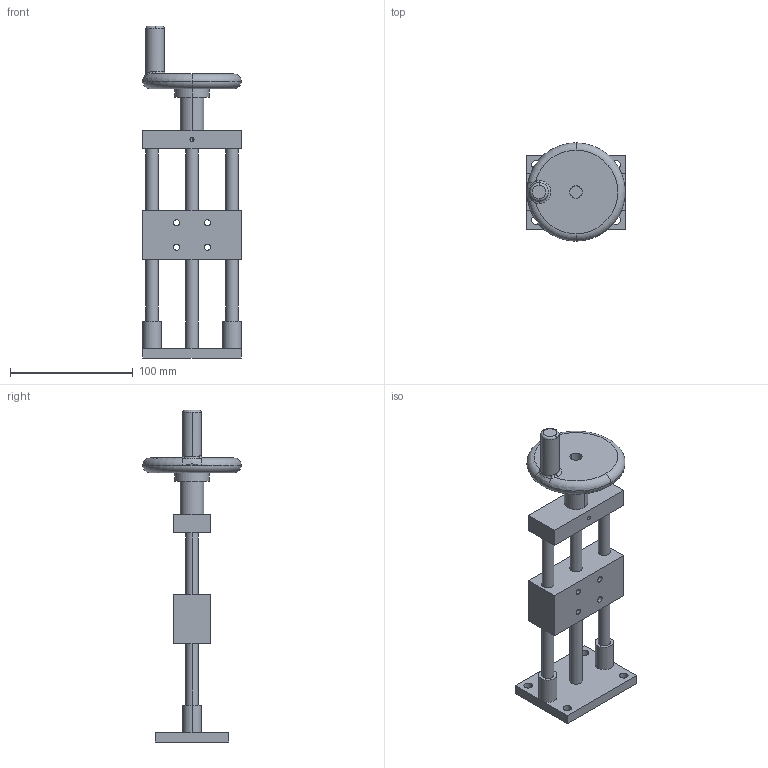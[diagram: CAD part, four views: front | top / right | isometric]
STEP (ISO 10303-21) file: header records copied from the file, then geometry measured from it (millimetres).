
FILE_DESCRIPTION (( 'STEP AP203' ), '1' );
FILE_NAME ('PT-SD502.STEP', '2022-04-16T03:02:59', ( '' ), ( '' ), 'SwSTEP 2.0', 'SolidWorks 2017', '' );
FILE_SCHEMA (( 'CONFIG_CONTROL_DESIGN' ));
Length unit declared in the file: millimetre
Products named in the file (3): 502; 忒謫2; PT-SD502
Assembly tree (2 placements, depth 2):
  PT-SD502
    502
    忒謫2
Bounding box: 80 x 80 x 270 mm (x, y, z)
Volume: 271627.5 mm3; surface area: 64049.8 mm2
Topology: 2 solids, 2 shells, 84 faces, 208 edges, 133 vertices
Faces by surface type: cylinder 43, plane 25, torus 10, bspline 4, cone 2
Entity records: 3157 total; most frequent: CARTESIAN_POINT 738, DIRECTION 484, ORIENTED_EDGE 412, EDGE_CURVE 206, AXIS2_PLACEMENT_3D 201, VERTEX_POINT 133, EDGE_LOOP 117, CIRCLE 116
